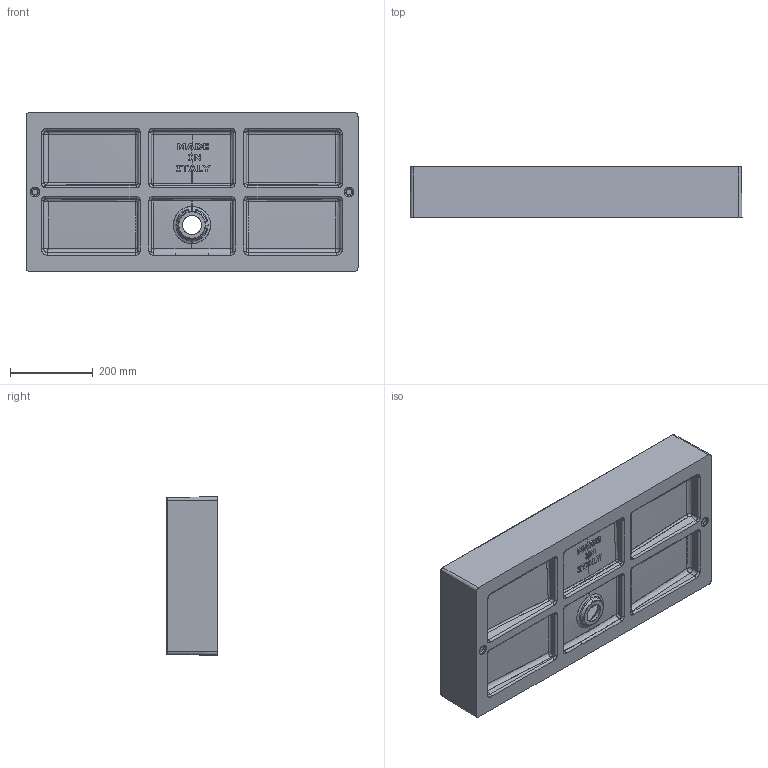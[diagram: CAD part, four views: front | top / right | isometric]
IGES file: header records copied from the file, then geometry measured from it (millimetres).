
Start section: SolidWorks IGES file using analytic representation for surfaces
Global section: file name: C:\Users\User\Desktop\nuovi slim square\box slim square 80 x 46  art\Slim square Lavabo Appoggio 80.IGS; native system: SolidWorks 2014; preprocessor: SolidWorks 2014; author: User; date: 160608.122755; units: millimetre
Bounding box: 804.36 x 125 x 384.36 mm (x, y, z)
Surface area: 1116500.5 mm2 (no closed solid volume)
Topology: 0 solids, 0 shells, 380 faces, 3954 edges, 3950 vertices
Faces by surface type: bspline 261, revolution 119
